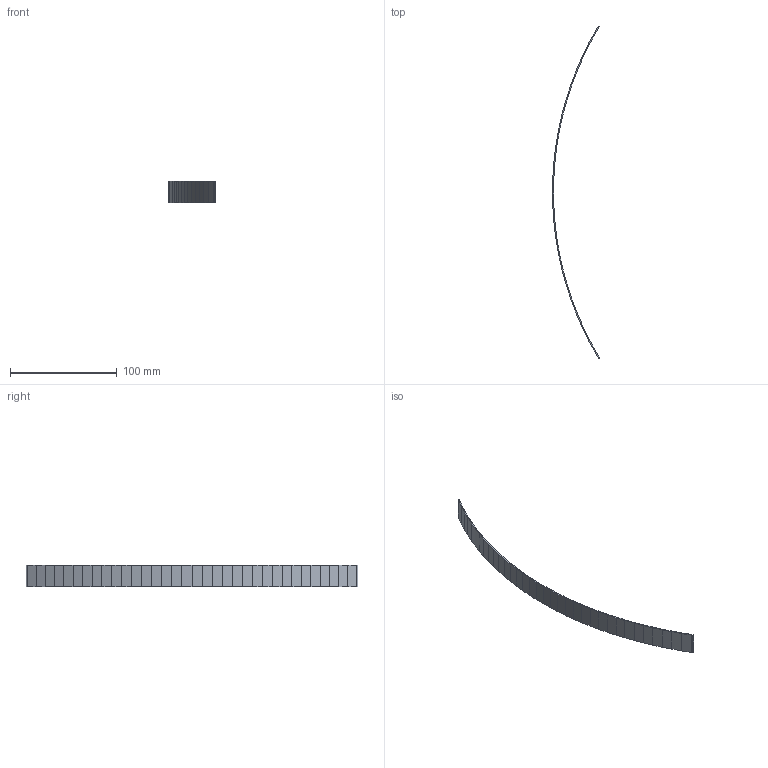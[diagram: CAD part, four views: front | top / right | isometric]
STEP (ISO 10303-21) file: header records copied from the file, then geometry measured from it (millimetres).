
FILE_DESCRIPTION(('STEP AP214'),'1');
FILE_NAME('.step','2025-06-17T06:47:50',(' '),('ANSOFT Corporation'),'Spatial InterOp 3D',' ',' ');
FILE_SCHEMA(('AUTOMOTIVE_DESIGN { 1 0 10303 214 1 1 1 1 }'));
Length unit declared in the file: millimetre
Products named in the file (1): Cylinder17
Bounding box: 44 x 311.18 x 20 mm (x, y, z)
Volume: 6535.3 mm3; surface area: 13765.1 mm2
Topology: 1 solids, 1 shells, 78 faces, 228 edges, 152 vertices
Faces by surface type: plane 78
Entity records: 2556 total; most frequent: CARTESIAN_POINT 459, ORIENTED_EDGE 456, DIRECTION 386, EDGE_CURVE 228, LINE 228, VECTOR 228, VERTEX_POINT 152, AXIS2_PLACEMENT_3D 79
